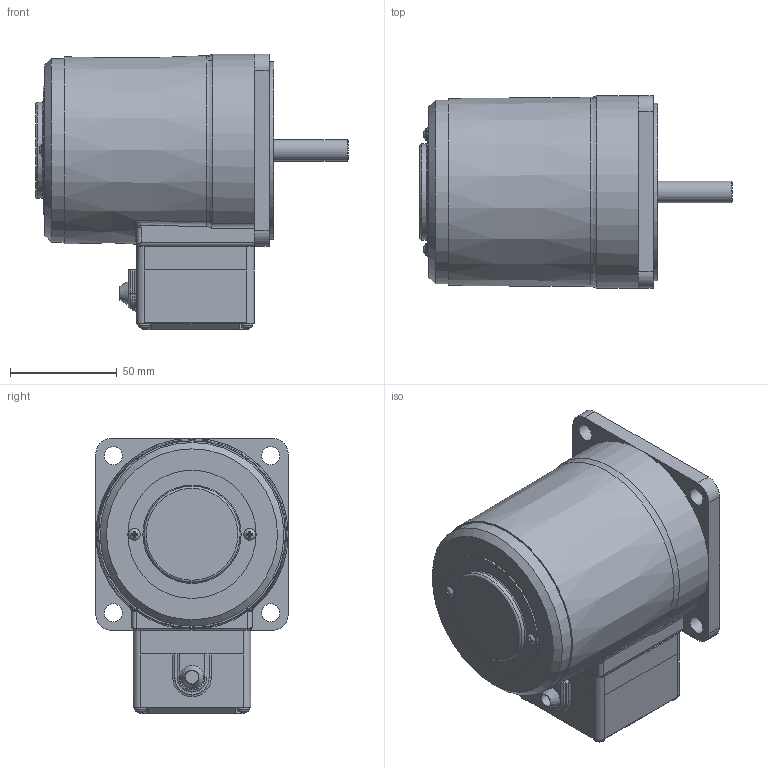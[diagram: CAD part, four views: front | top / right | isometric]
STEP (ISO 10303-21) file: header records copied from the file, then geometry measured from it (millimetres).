
FILE_DESCRIPTION(/* description */ (''),/* implementation_level */ '2;1');
FILE_NAME(/* name */ 'E:\도면작업\2016\0704) 미주향 SG 도면\3D MOTOR\TERMINAL BOX TYPE\REVERSIBLE TERMINAL BOX\SG9R40S_-T1.stp',/* time_stamp */ '2017-01-24T11:33:08+09:00',/* author */ ('jy-jung'),/* organization */ (''),/* preprocessor_version */ 'ST-DEVELOPER v15.6',/* originating_system */ 'Autodesk Inventor 2015',/* authorisation */ '');
FILE_SCHEMA (('AUTOMOTIVE_DESIGN { 1 0 10303 214 3 1 1 }'));
Length unit declared in the file: millimetre
Products named in the file (1): 부품1
Bounding box: 146.3 x 90 x 129 mm (x, y, z)
Volume: 781460.1 mm3; surface area: 62872.4 mm2
Topology: 1 solids, 5 shells, 307 faces, 796 edges, 511 vertices
Faces by surface type: plane 147, cylinder 60, cone 44, torus 32, bspline 20, sphere 4
Full cylindrical faces by diameter (mm): 3 x2, 3.5 x2, 5.6 x2, 8 x1, 8.5 x4, 10 x1, 40 x1, 43 x1, 45 x1, 60 x1, 83 x1, 86 x1
Entity records: 10326 total; most frequent: CARTESIAN_POINT 2964, ORIENTED_EDGE 1476, DIRECTION 1445, EDGE_CURVE 738, AXIS2_PLACEMENT_3D 557, VERTEX_POINT 499, EDGE_LOOP 377, LINE 331
